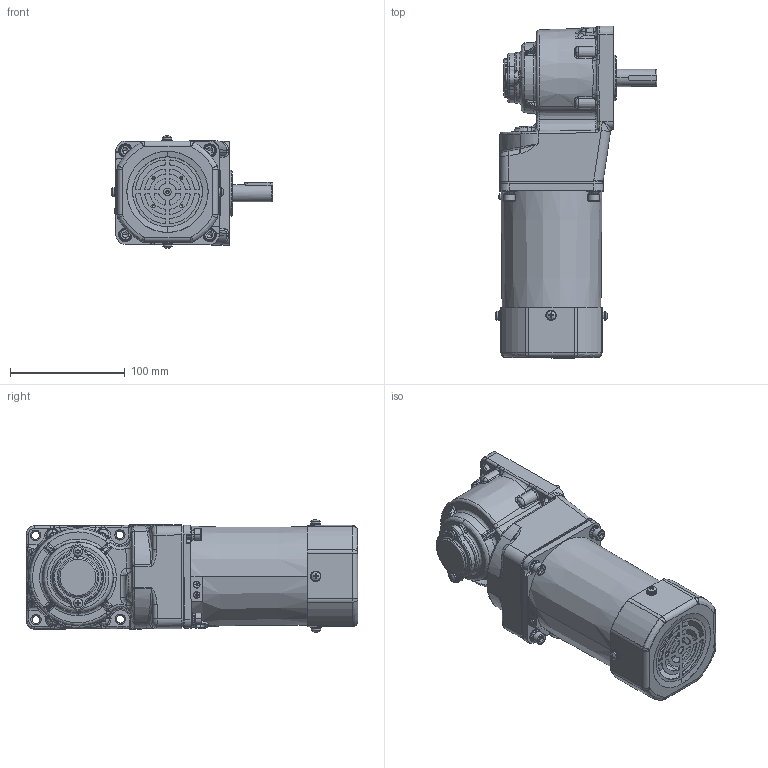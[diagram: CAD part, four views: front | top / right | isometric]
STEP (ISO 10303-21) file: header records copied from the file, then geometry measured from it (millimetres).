
FILE_DESCRIPTION (( 'STEP AP203' ), '1' );
FILE_NAME ('5IK90RGU-CF(5GU3RT-180RT)ÐÂ.STEP', '2022-02-25T01:50:37', ( 'PC' ), ( 'Microsoft' ), 'SwSTEP 2.0', 'SolidWorks 2014', '' );
FILE_SCHEMA (( 'CONFIG_CONTROL_DESIGN' ));
Length unit declared in the file: millimetre
Products named in the file (9): 5IK90RGU-CF(5GU3RT-180RT); 5IK90RGU-CF(5GU3RT-180RT)陔; zd-5gu-50rc-504-001m#眊极禱矗 2021-12-07 - 萵掛; 90妗陑怀堤粣; 90壔裔; ZD-5GU50RC-505-003綴傷裔; 90RT妗陑怀堤傷裔; hexagon socket head cap screws gb_GB_FASTENER_SCREWS_HSHCS M5X12-N; cross recessed pan head screws gb_GB_CROSS_SCREWS_TYPE1 M4X6-6  H type-N
Assembly tree (12 placements, depth 2):
  5IK90RGU-CF(5GU3RT-180RT)陔
    zd-5gu-50rc-504-001m#眊极禱矗 2021-12-07 - 萵掛
    90妗陑怀堤粣
    90壔裔
    ZD-5GU50RC-505-003綴傷裔
    90RT妗陑怀堤傷裔
    hexagon socket head cap screws gb_GB_FASTENER_SCREWS_HSHCS M5X12-N  x4
    cross recessed pan head screws gb_GB_CROSS_SCREWS_TYPE1 M4X6-6  H type-N  x2
    5IK90RGU-CF(5GU3RT-180RT)
Bounding box: 141.25 x 289.46 x 98.12 mm (x, y, z)
Volume: 1620314.7 mm3; surface area: 214388.2 mm2
Topology: 45 solids, 45 shells, 2237 faces, 5512 edges, 3322 vertices
Faces by surface type: plane 677, cylinder 569, bspline 483, cone 411, torus 91, sphere 6
Entity records: 89022 total; most frequent: CARTESIAN_POINT 41278, ORIENTED_EDGE 10336, DIRECTION 9032, EDGE_CURVE 5168, AXIS2_PLACEMENT_3D 3584, VERTEX_POINT 3182, EDGE_LOOP 2290, ADVANCED_FACE 2138
